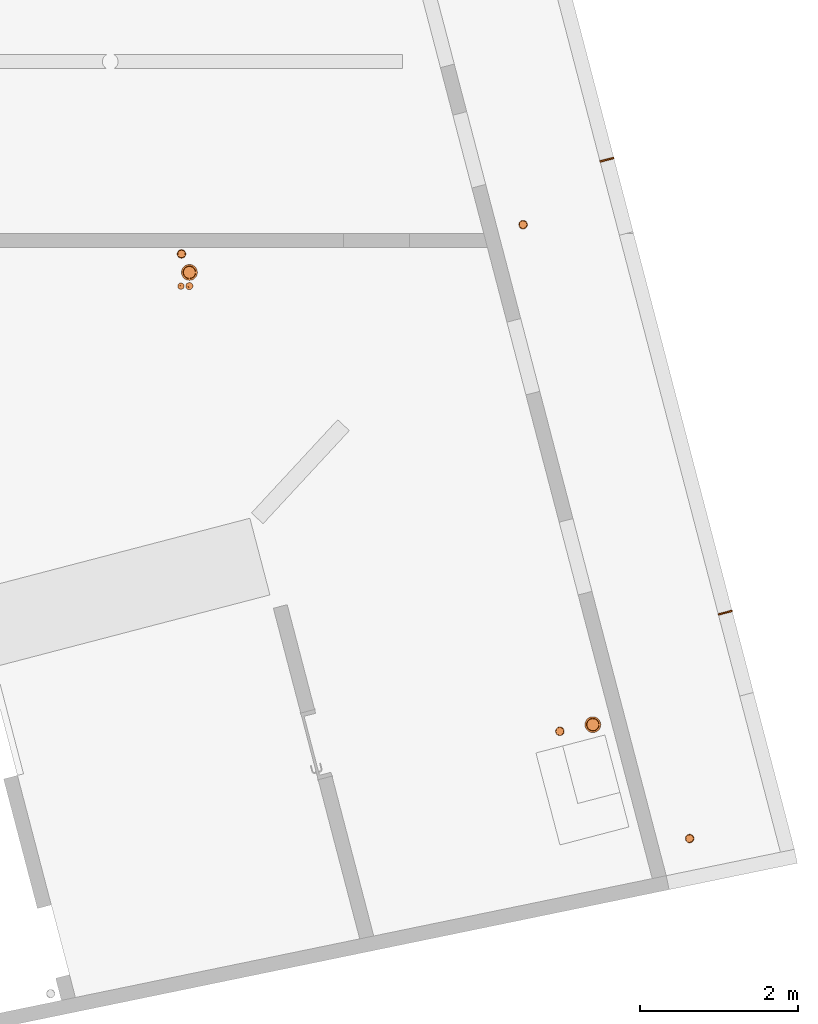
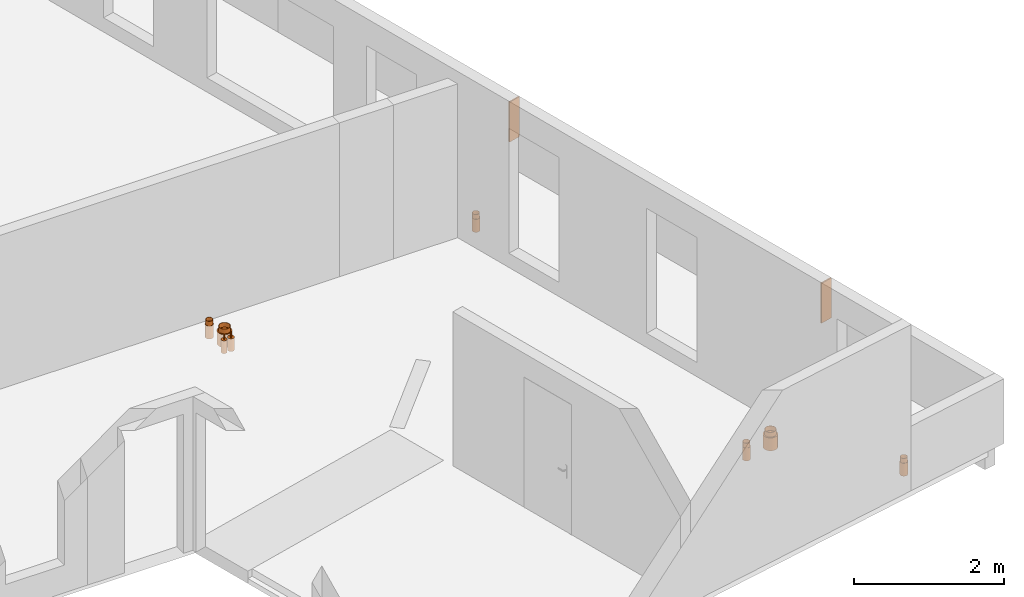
# One storey, part 27 of 28: 10 proxies.
"""IFC2X3 building model written with IfcOpenShell, lengths in centimetres."""

from ifc_helpers import new_model, entity, si_unit, converted_unit, derived_unit, direction, frame, frame_2d, origin, origin_2d_with_axis, place, context, subcontext, project, spatial, rectangle, circle, hollow_circle, extrude, source, transform, mapped, material, type_object, type_shapes, element, save


model = new_model("IFC2X3")

# Units and contexts
model_context = context("Model", 3, precision=0.001, world=origin(), true_north=direction((6.12303176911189e-17, 1.0)))
body_context = subcontext(model_context, "Body", "Model", "MODEL_VIEW")
ifc_project = project(units=[si_unit("LENGTHUNIT", "METRE", prefix="CENTI"), si_unit("AREAUNIT", "SQUARE_METRE"), si_unit("VOLUMEUNIT", "CUBIC_METRE"), converted_unit("PLANEANGLEUNIT", "DEGREE", entity("IfcRatioMeasure", 0.0174532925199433), si_unit("PLANEANGLEUNIT", "RADIAN"), dimensions=[0, 0, 0, 0, 0, 0, 0]), si_unit("MASSUNIT", "GRAM", prefix="KILO"), derived_unit("MASSDENSITYUNIT", [(si_unit("MASSUNIT", "GRAM", prefix="KILO"), 1), (si_unit("LENGTHUNIT", "METRE"), -3)]), si_unit("TIMEUNIT", "SECOND"), si_unit("FREQUENCYUNIT", "HERTZ"), si_unit("THERMODYNAMICTEMPERATUREUNIT", "DEGREE_CELSIUS"), derived_unit("THERMALTRANSMITTANCEUNIT", [(si_unit("MASSUNIT", "GRAM", prefix="KILO"), 1), (si_unit("THERMODYNAMICTEMPERATUREUNIT", "KELVIN"), -1), (si_unit("TIMEUNIT", "SECOND"), -3)]), derived_unit("VOLUMETRICFLOWRATEUNIT", [(si_unit("LENGTHUNIT", "METRE"), 3), (si_unit("TIMEUNIT", "SECOND"), -1)]), si_unit("ELECTRICCURRENTUNIT", "AMPERE"), si_unit("ELECTRICVOLTAGEUNIT", "VOLT"), si_unit("POWERUNIT", "WATT"), si_unit("FORCEUNIT", "NEWTON"), si_unit("ILLUMINANCEUNIT", "LUX"), si_unit("LUMINOUSFLUXUNIT", "LUMEN"), si_unit("LUMINOUSINTENSITYUNIT", "CANDELA"), derived_unit("USERDEFINED", [(si_unit("MASSUNIT", "GRAM", prefix="KILO"), -1), (si_unit("LENGTHUNIT", "METRE"), -2), (si_unit("TIMEUNIT", "SECOND"), 3), (si_unit("LUMINOUSFLUXUNIT", "LUMEN"), 1)]), derived_unit("LINEARVELOCITYUNIT", [(si_unit("LENGTHUNIT", "METRE"), 1), (si_unit("TIMEUNIT", "SECOND"), -1)]), si_unit("PRESSUREUNIT", "PASCAL"), derived_unit("USERDEFINED", [(si_unit("LENGTHUNIT", "METRE"), -2), (si_unit("MASSUNIT", "GRAM", prefix="KILO"), 1), (si_unit("TIMEUNIT", "SECOND"), -2)])], contexts=[model_context])

# Site, building, storey
site_placement = place(None, origin())
site = spatial("IfcSite", under=ifc_project, at=site_placement, Name="Default", CompositionType="ELEMENT")
building_placement = place(site_placement, origin())
building = spatial("IfcBuilding", under=site, at=building_placement, Name="CAGE 03", CompositionType="ELEMENT")
storey_placement = place(building_placement, frame((0.0, 0.0, 1420.0)))
storey = spatial("IfcBuildingStorey", under=building, at=storey_placement, Name="R+5", CompositionType="ELEMENT", Elevation=1420.0)

# Proxies
ifc_material_1 = material(Name="BBGO_Résa")
building_element_proxy_type_1 = type_object("IfcBuildingElementProxyType", Name="J.F.", PredefinedType="NOTDEFINED", material=ifc_material_1)
shared_shape_1 = source(origin(), body_context, "Body", "SweptSolid", [
    extrude(rectangle(XDim=2.00000000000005, YDim=18.0000000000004, at=origin_2d_with_axis()), frame((11488.4052977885, 4359.7821483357, 1460.0), z_axis=(0.0, 0.0, 1.0), x_axis=(0.252679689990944, -0.967549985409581, 0.0)), (0.0, 0.0, 1.0), 64.9999999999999),
])
type_shapes(building_element_proxy_type_1, [shared_shape_1])
proxy_1_placement = place(storey_placement, frame((0.0, 0.0, -1420.0)))
element("IfcBuildingElementProxy", 1, at=proxy_1_placement, inside=storey, type_object=building_element_proxy_type_1, material=ifc_material_1, Name="BBGO-Résa rect et circ:J.F.", ObjectType="J.F.", context=body_context, shape_type="MappedRepresentation", body=[
    mapped(shared_shape_1, transform((0.0, 0.0, 0.0), scale=1.0)),
])
building_element_proxy_type_2 = type_object("IfcBuildingElementProxyType", Name="J.F.", PredefinedType="NOTDEFINED", material=ifc_material_1)
shared_shape_2 = source(origin(), body_context, "Body", "SweptSolid", [
    extrude(rectangle(XDim=2.00000000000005, YDim=18.0000000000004, at=origin_2d_with_axis()), frame((11637.738994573, 3787.96010695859, 1460.0), z_axis=(0.0, 0.0, 1.0), x_axis=(0.252679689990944, -0.967549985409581, 0.0)), (0.0, 0.0, 1.0), 64.9999999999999),
])
type_shapes(building_element_proxy_type_2, [shared_shape_2])
proxy_2_placement = place(storey_placement, frame((0.0, 0.0, -1420.0)))
element("IfcBuildingElementProxy", 2, at=proxy_2_placement, inside=storey, type_object=building_element_proxy_type_2, material=ifc_material_1, Name="BBGO-Résa rect et circ:J.F.", ObjectType="J.F.", context=body_context, shape_type="MappedRepresentation", body=[
    mapped(shared_shape_2, transform((0.0, 0.0, 0.0), scale=1.0)),
])
ifc_material_2 = material(Name="Conduit EP")
building_element_proxy_type_3 = type_object("IfcBuildingElementProxyType", Name="EP 101", PredefinedType="NOTDEFINED", material=ifc_material_2)
shared_shape_3 = source(origin(), body_context, "Body", "SweptSolid", [
    extrude(circle(Radius=5.5, at=frame_2d((0.0, -8.88549515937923e-15), x_axis=(1.0, 0.0))), frame((0.0, 0.0, -21.0)), (0.0, 0.0, 1.0), 21.0),
    extrude(hollow_circle(Radius=5.0, WallThickness=0.25, at=frame_2d((0.0, -8.07772287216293e-15), x_axis=(1.0, 0.0))), frame((0.0, 0.0, -21.0)), (0.0, 0.0, 1.0), 28.5),
])
type_shapes(building_element_proxy_type_3, [shared_shape_3])
for number, where, name in (
    (3, (11382.535572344, 4277.82138926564, 0.0), "Galette - Résa - PVC4:EP 101"),
    (4, (11592.7963820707, 3502.82520733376, 0.0), "Galette - Résa - PVC4:EP 101"),
):
    element("IfcBuildingElementProxy", number, at=place(storey_placement, frame(where)), inside=storey, type_object=building_element_proxy_type_3, material=ifc_material_2, Name=name, ObjectType="EP 101", context=body_context, shape_type="MappedRepresentation", body=[
        mapped(shared_shape_3, transform((0.0, 0.0, 0.0), scale=1.0)),
    ])
ifc_material_3 = material(Name="Conduit EU")
building_element_proxy_type_4 = type_object("IfcBuildingElementProxyType", Name="CFO125 P110", PredefinedType="NOTDEFINED", material=ifc_material_3)
shared_shape_4 = source(origin(), body_context, "Body", "SweptSolid", [
    extrude(circle(Radius=5.5, at=frame_2d((0.0, -8.88549515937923e-15), x_axis=(1.0, 0.0))), frame((0.0, 0.0, -21.0)), (0.0, 0.0, 1.0), 21.0),
    extrude(hollow_circle(Radius=5.0, WallThickness=0.25, at=frame_2d((0.0, -8.07772287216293e-15), x_axis=(1.0, 0.0))), frame((0.0, 0.0, -21.0)), (0.0, 0.0, 1.0), 28.5),
])
type_shapes(building_element_proxy_type_4, [shared_shape_4])
proxy_3_placement = place(storey_placement, frame((11428.9637022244, 3638.21161603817, 0.0), z_axis=(0.0, 0.0, 1.0), x_axis=(0.96754998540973, 0.252679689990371, 0.0)))
element("IfcBuildingElementProxy", 5, at=proxy_3_placement, inside=storey, type_object=building_element_proxy_type_4, material=ifc_material_3, Name="Galette - Résa - PVC4:CFO125 P110", ObjectType="CFO125 P110", context=body_context, shape_type="MappedRepresentation", body=[
    mapped(shared_shape_4, transform((0.0, 0.0, 0.0), scale=1.0)),
])
proxy_4_placement = place(storey_placement, frame((10951.298179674, 4240.82138926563, 0.0)))
element("IfcBuildingElementProxy", 6, at=proxy_4_placement, inside=storey, type_object=building_element_proxy_type_4, material=ifc_material_3, Name="Galette - Résa - PVC4:CFO125 P110", ObjectType="CFO125 P110", context=body_context, shape_type="MappedRepresentation", body=[
    mapped(shared_shape_4, transform((0.0, 0.0, 0.0), scale=1.0)),
])
ifc_material_4 = material(Name="Conduit VMC")
building_element_proxy_type_5 = type_object("IfcBuildingElementProxyType", Name="CFO200 P170", PredefinedType="NOTDEFINED", material=ifc_material_4)
shared_shape_5 = source(origin(), body_context, "Body", "SweptSolid", [
    extrude(circle(Radius=10.0, at=frame_2d((0.0, -1.61554457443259e-14), x_axis=(1.0, 0.0))), frame((0.0, 0.0, -21.0)), (0.0, 0.0, 1.0), 21.0),
    extrude(hollow_circle(Radius=8.0, WallThickness=0.500000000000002, at=frame_2d((0.0, -1.29243565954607e-14), x_axis=(1.0, 0.0))), frame((0.0, 0.0, -21.0)), (0.0, 0.0, 1.0), 28.5),
])
type_shapes(building_element_proxy_type_5, [shared_shape_5])
proxy_5_placement = place(storey_placement, frame((11470.6360049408, 3646.5871587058, 0.0), z_axis=(0.0, 0.0, 1.0), x_axis=(0.96754998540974, 0.252679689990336, 0.0)))
element("IfcBuildingElementProxy", 7, at=proxy_5_placement, inside=storey, type_object=building_element_proxy_type_5, material=ifc_material_4, Name="Galette - Résa - PVC4:CFO200 P170", ObjectType="CFO200 P170", context=body_context, shape_type="MappedRepresentation", body=[
    mapped(shared_shape_5, transform((0.0, 0.0, 0.0), scale=1.0)),
])
proxy_6_placement = place(storey_placement, frame((10961.2981796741, 4217.53269131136, 0.0)))
element("IfcBuildingElementProxy", 8, at=proxy_6_placement, inside=storey, type_object=building_element_proxy_type_5, material=ifc_material_4, Name="Galette - Résa - PVC4:CFO200 P170", ObjectType="CFO200 P170", context=body_context, shape_type="MappedRepresentation", body=[
    mapped(shared_shape_5, transform((0.0, 0.0, 0.0), scale=1.0)),
])
ifc_material_5 = material(Name="Circuit ECS Retour")
building_element_proxy_type_6 = type_object("IfcBuildingElementProxyType", Name="CFO100 P80", PredefinedType="NOTDEFINED", material=ifc_material_5)
shared_shape_6 = source(origin(), body_context, "Body", "SweptSolid", [
    extrude(circle(Radius=4.0, at=frame_2d((0.0, -6.46217829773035e-15), x_axis=(1.0, 0.0))), frame((0.0, 0.0, -21.0)), (0.0, 0.0, 1.0), 21.0),
    extrude(hollow_circle(Radius=1.0, WallThickness=0.0500000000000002, at=frame_2d((0.0, -1.61554457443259e-15), x_axis=(1.0, 0.0))), frame((0.0, 0.0, -21.0)), (0.0, 0.0, 1.0), 28.5),
])
type_shapes(building_element_proxy_type_6, [shared_shape_6])
proxy_7_placement = place(storey_placement, frame((10950.5781146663, 4200.15581262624, 0.0)))
element("IfcBuildingElementProxy", 9, at=proxy_7_placement, inside=storey, type_object=building_element_proxy_type_6, material=ifc_material_5, Name="Galette - Résa - PVC4:CFO100 P80", ObjectType="CFO100 P80", context=body_context, shape_type="MappedRepresentation", body=[
    mapped(shared_shape_6, transform((0.0, 0.0, 0.0), scale=1.0)),
])
ifc_material_6 = material(Name="Circuit ECS Aller")
building_element_proxy_type_7 = type_object("IfcBuildingElementProxyType", Name="CFO100 P90", PredefinedType="NOTDEFINED", material=ifc_material_6)
shared_shape_7 = source(origin(), body_context, "Body", "SweptSolid", [
    extrude(circle(Radius=4.5, at=frame_2d((0.0, -7.26995058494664e-15), x_axis=(1.0, 0.0))), frame((0.0, 0.0, -21.0)), (0.0, 0.0, 1.0), 21.0),
    extrude(hollow_circle(Radius=1.6, WallThickness=0.05, at=frame_2d((0.0, -2.58487131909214e-15), x_axis=(1.0, 0.0))), frame((0.0, 0.0, -21.0)), (0.0, 0.0, 1.0), 28.5),
])
type_shapes(building_element_proxy_type_7, [shared_shape_7])
proxy_8_placement = place(storey_placement, frame((10961.1967817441, 4200.15581262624, 0.0)))
element("IfcBuildingElementProxy", 10, at=proxy_8_placement, inside=storey, type_object=building_element_proxy_type_7, material=ifc_material_6, Name="Galette - Résa - PVC4:CFO100 P90", ObjectType="CFO100 P90", context=body_context, shape_type="MappedRepresentation", body=[
    mapped(shared_shape_7, transform((0.0, 0.0, 0.0), scale=1.0)),
])

save(model, "model.ifc")
